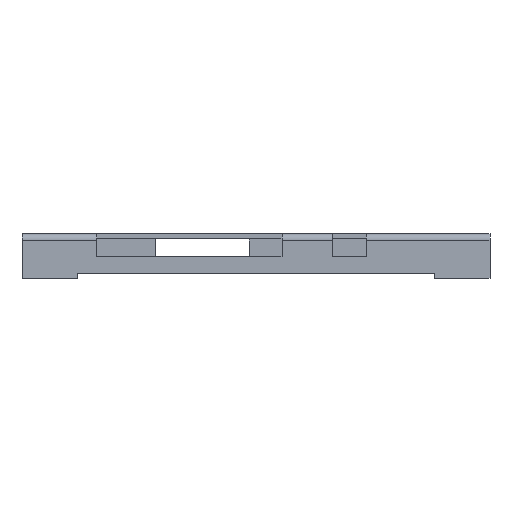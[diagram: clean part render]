
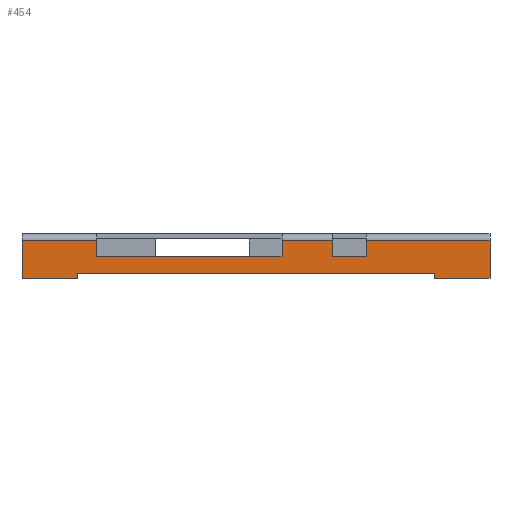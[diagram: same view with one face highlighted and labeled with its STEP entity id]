
A CAD part, left-side view. The second image highlights one B-rep face of the part: STEP entity #454.
In plain terms, the highlighted planar face has unit normal (-1, 0, 0).
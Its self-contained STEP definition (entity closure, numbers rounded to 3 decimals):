
#37 = VERTEX_POINT ( 'NONE', #1776 ) ;
#97 = EDGE_CURVE ( 'NONE', #356, #109, #1920, .T. ) ;
#98 = ORIENTED_EDGE ( 'NONE', *, *, #100, .T. ) ;
#99 = ORIENTED_EDGE ( 'NONE', *, *, #458, .T. ) ;
#100 = EDGE_CURVE ( 'NONE', #109, #107, #1916, .T. ) ;
#101 = EDGE_CURVE ( 'NONE', #107, #367, #1912, .T. ) ;
#102 = ORIENTED_EDGE ( 'NONE', *, *, #366, .T. ) ;
#105 = ORIENTED_EDGE ( 'NONE', *, *, #358, .T. ) ;
#106 = ORIENTED_EDGE ( 'NONE', *, *, #97, .T. ) ;
#107 = VERTEX_POINT ( 'NONE', #1965 ) ;
#108 = ORIENTED_EDGE ( 'NONE', *, *, #101, .T. ) ;
#109 = VERTEX_POINT ( 'NONE', #1964 ) ;
#111 = ORIENTED_EDGE ( 'NONE', *, *, #112, .T. ) ;
#112 = EDGE_CURVE ( 'NONE', #124, #460, #1963, .T. ) ;
#114 = VERTEX_POINT ( 'NONE', #1959 ) ;
#115 = EDGE_CURVE ( 'NONE', #446, #116, #1958, .T. ) ;
#116 = VERTEX_POINT ( 'NONE', #1954 ) ;
#117 = ORIENTED_EDGE ( 'NONE', *, *, #123, .F. ) ;
#118 = VERTEX_POINT ( 'NONE', #1953 ) ;
#119 = ORIENTED_EDGE ( 'NONE', *, *, #120, .T. ) ;
#120 = EDGE_CURVE ( 'NONE', #118, #124, #1952, .T. ) ;
#121 = EDGE_CURVE ( 'NONE', #114, #116, #1948, .T. ) ;
#122 = ORIENTED_EDGE ( 'NONE', *, *, #121, .F. ) ;
#123 = EDGE_CURVE ( 'NONE', #118, #114, #1944, .T. ) ;
#124 = VERTEX_POINT ( 'NONE', #1940 ) ;
#356 = VERTEX_POINT ( 'NONE', #2364 ) ;
#358 = EDGE_CURVE ( 'NONE', #37, #356, #2363, .T. ) ;
#366 = EDGE_CURVE ( 'NONE', #367, #368, #2415, .T. ) ;
#367 = VERTEX_POINT ( 'NONE', #2411 ) ;
#368 = VERTEX_POINT ( 'NONE', #2410 ) ;
#408 = VERTEX_POINT ( 'NONE', #2471 ) ;
#411 = EDGE_CURVE ( 'NONE', #408, #368, #2466, .T. ) ;
#439 = VERTEX_POINT ( 'NONE', #2550 ) ;
#440 = EDGE_CURVE ( 'NONE', #439, #450, #2549, .T. ) ;
#441 = ORIENTED_EDGE ( 'NONE', *, *, #442, .F. ) ;
#442 = EDGE_CURVE ( 'NONE', #443, #439, #2545, .T. ) ;
#443 = VERTEX_POINT ( 'NONE', #2541 ) ;
#444 = ORIENTED_EDGE ( 'NONE', *, *, #445, .T. ) ;
#445 = EDGE_CURVE ( 'NONE', #443, #446, #2540, .T. ) ;
#446 = VERTEX_POINT ( 'NONE', #2536 ) ;
#447 = ORIENTED_EDGE ( 'NONE', *, *, #115, .T. ) ;
#448 = ORIENTED_EDGE ( 'NONE', *, *, #440, .F. ) ;
#450 = VERTEX_POINT ( 'NONE', #2535 ) ;
#451 = EDGE_CURVE ( 'NONE', #408, #450, #2534, .T. ) ;
#454 = ADVANCED_FACE ( 'NONE', ( #2530 ), #2588, .F. ) ;
#455 = EDGE_LOOP ( 'NONE', ( #461, #462, #448, #441, #444, #447, #122, #117, #119, #111, #99, #105, #106, #98, #108, #102 ) ) ;
#458 = EDGE_CURVE ( 'NONE', #460, #37, #2583, .T. ) ;
#460 = VERTEX_POINT ( 'NONE', #2575 ) ;
#461 = ORIENTED_EDGE ( 'NONE', *, *, #411, .F. ) ;
#462 = ORIENTED_EDGE ( 'NONE', *, *, #451, .T. ) ;
#1776 = CARTESIAN_POINT ( 'NONE',  ( -17.1, 72., 0. ) ) ;
#1909 = DIRECTION ( 'NONE',  ( 0., 0., -1. ) ) ;
#1910 = VECTOR ( 'NONE', #1909, 1000. ) ;
#1911 = CARTESIAN_POINT ( 'NONE',  ( -17.1, -55., 1.6 ) ) ;
#1912 = LINE ( 'NONE', #1911, #1910 ) ;
#1913 = DIRECTION ( 'NONE',  ( 0., -1., 0. ) ) ;
#1914 = VECTOR ( 'NONE', #1913, 1000. ) ;
#1915 = CARTESIAN_POINT ( 'NONE',  ( -17.1, 55., 1.6 ) ) ;
#1916 = LINE ( 'NONE', #1915, #1914 ) ;
#1917 = DIRECTION ( 'NONE',  ( 0., 0., 1. ) ) ;
#1918 = VECTOR ( 'NONE', #1917, 1000. ) ;
#1919 = CARTESIAN_POINT ( 'NONE',  ( -17.1, 55., 1.6 ) ) ;
#1920 = LINE ( 'NONE', #1919, #1918 ) ;
#1940 = CARTESIAN_POINT ( 'NONE',  ( -17.1, 49., 11.7 ) ) ;
#1941 = DIRECTION ( 'NONE',  ( 0., -1., 0. ) ) ;
#1942 = VECTOR ( 'NONE', #1941, 1000. ) ;
#1943 = CARTESIAN_POINT ( 'NONE',  ( -17.1, 49., 6.6 ) ) ;
#1944 = LINE ( 'NONE', #1943, #1942 ) ;
#1945 = DIRECTION ( 'NONE',  ( 0., 0., 1. ) ) ;
#1946 = VECTOR ( 'NONE', #1945, 1000. ) ;
#1947 = CARTESIAN_POINT ( 'NONE',  ( -17.1, -8., 6.6 ) ) ;
#1948 = LINE ( 'NONE', #1947, #1946 ) ;
#1949 = DIRECTION ( 'NONE',  ( 0., 0., 1. ) ) ;
#1950 = VECTOR ( 'NONE', #1949, 1000. ) ;
#1951 = CARTESIAN_POINT ( 'NONE',  ( -17.1, 49., 6.6 ) ) ;
#1952 = LINE ( 'NONE', #1951, #1950 ) ;
#1953 = CARTESIAN_POINT ( 'NONE',  ( -17.1, 49., 6.6 ) ) ;
#1954 = CARTESIAN_POINT ( 'NONE',  ( -17.1, -8., 11.7 ) ) ;
#1955 = DIRECTION ( 'NONE',  ( 0., 1., 0. ) ) ;
#1956 = VECTOR ( 'NONE', #1955, 1000. ) ;
#1957 = CARTESIAN_POINT ( 'NONE',  ( -17.1, -8., 11.7 ) ) ;
#1958 = LINE ( 'NONE', #1957, #1956 ) ;
#1959 = CARTESIAN_POINT ( 'NONE',  ( -17.1, -8., 6.6 ) ) ;
#1960 = DIRECTION ( 'NONE',  ( 0., 1., 0. ) ) ;
#1961 = VECTOR ( 'NONE', #1960, 1000. ) ;
#1962 = CARTESIAN_POINT ( 'NONE',  ( -17.1, 72., 11.7 ) ) ;
#1963 = LINE ( 'NONE', #1962, #1961 ) ;
#1964 = CARTESIAN_POINT ( 'NONE',  ( -17.1, 55., 1.6 ) ) ;
#1965 = CARTESIAN_POINT ( 'NONE',  ( -17.1, -55., 1.6 ) ) ;
#2362 = CARTESIAN_POINT ( 'NONE',  ( -17.1, 72., 0. ) ) ;
#2363 = LINE ( 'NONE', #2362, #2429 ) ;
#2364 = CARTESIAN_POINT ( 'NONE',  ( -17.1, 55., 0. ) ) ;
#2410 = CARTESIAN_POINT ( 'NONE',  ( -17.1, -72., 0. ) ) ;
#2411 = CARTESIAN_POINT ( 'NONE',  ( -17.1, -55., 0. ) ) ;
#2412 = DIRECTION ( 'NONE',  ( 0., -1., 0. ) ) ;
#2413 = VECTOR ( 'NONE', #2412, 1000. ) ;
#2414 = CARTESIAN_POINT ( 'NONE',  ( -17.1, 72., 0. ) ) ;
#2415 = LINE ( 'NONE', #2414, #2413 ) ;
#2428 = DIRECTION ( 'NONE',  ( 0., -1., 0. ) ) ;
#2429 = VECTOR ( 'NONE', #2428, 1000. ) ;
#2463 = DIRECTION ( 'NONE',  ( 0., 0., -1. ) ) ;
#2464 = VECTOR ( 'NONE', #2463, 1000. ) ;
#2465 = CARTESIAN_POINT ( 'NONE',  ( -17.1, -72., 13.7 ) ) ;
#2466 = LINE ( 'NONE', #2465, #2464 ) ;
#2471 = CARTESIAN_POINT ( 'NONE',  ( -17.1, -72., 11.7 ) ) ;
#2530 = FACE_OUTER_BOUND ( 'NONE', #455, .T. ) ;
#2531 = DIRECTION ( 'NONE',  ( 0., 1., 0. ) ) ;
#2532 = VECTOR ( 'NONE', #2531, 1000. ) ;
#2533 = CARTESIAN_POINT ( 'NONE',  ( -17.1, -34., 11.7 ) ) ;
#2534 = LINE ( 'NONE', #2533, #2532 ) ;
#2535 = CARTESIAN_POINT ( 'NONE',  ( -17.1, -34., 11.7 ) ) ;
#2536 = CARTESIAN_POINT ( 'NONE',  ( -17.1, -23.5, 11.7 ) ) ;
#2537 = DIRECTION ( 'NONE',  ( 0., 0., 1. ) ) ;
#2538 = VECTOR ( 'NONE', #2537, 1000. ) ;
#2539 = CARTESIAN_POINT ( 'NONE',  ( -17.1, -23.5, 6.6 ) ) ;
#2540 = LINE ( 'NONE', #2539, #2538 ) ;
#2541 = CARTESIAN_POINT ( 'NONE',  ( -17.1, -23.5, 6.6 ) ) ;
#2542 = DIRECTION ( 'NONE',  ( 0., -1., 0. ) ) ;
#2543 = VECTOR ( 'NONE', #2542, 1000. ) ;
#2544 = CARTESIAN_POINT ( 'NONE',  ( -17.1, -23.5, 6.6 ) ) ;
#2545 = LINE ( 'NONE', #2544, #2543 ) ;
#2546 = DIRECTION ( 'NONE',  ( 0., 0., 1. ) ) ;
#2547 = VECTOR ( 'NONE', #2546, 1000. ) ;
#2548 = CARTESIAN_POINT ( 'NONE',  ( -17.1, -34., 6.6 ) ) ;
#2549 = LINE ( 'NONE', #2548, #2547 ) ;
#2550 = CARTESIAN_POINT ( 'NONE',  ( -17.1, -34., 6.6 ) ) ;
#2575 = CARTESIAN_POINT ( 'NONE',  ( -17.1, 72., 11.7 ) ) ;
#2580 = DIRECTION ( 'NONE',  ( 0., 0., -1. ) ) ;
#2581 = VECTOR ( 'NONE', #2580, 1000. ) ;
#2582 = CARTESIAN_POINT ( 'NONE',  ( -17.1, 72., 13.7 ) ) ;
#2583 = LINE ( 'NONE', #2582, #2581 ) ;
#2584 = DIRECTION ( 'NONE',  ( 0., 0., -1. ) ) ;
#2585 = DIRECTION ( 'NONE',  ( 1., 0., 0. ) ) ;
#2586 = CARTESIAN_POINT ( 'NONE',  ( -17.1, 72., 13.7 ) ) ;
#2587 = AXIS2_PLACEMENT_3D ( 'NONE', #2586, #2585, #2584 ) ;
#2588 = PLANE ( 'NONE',  #2587 ) ;
